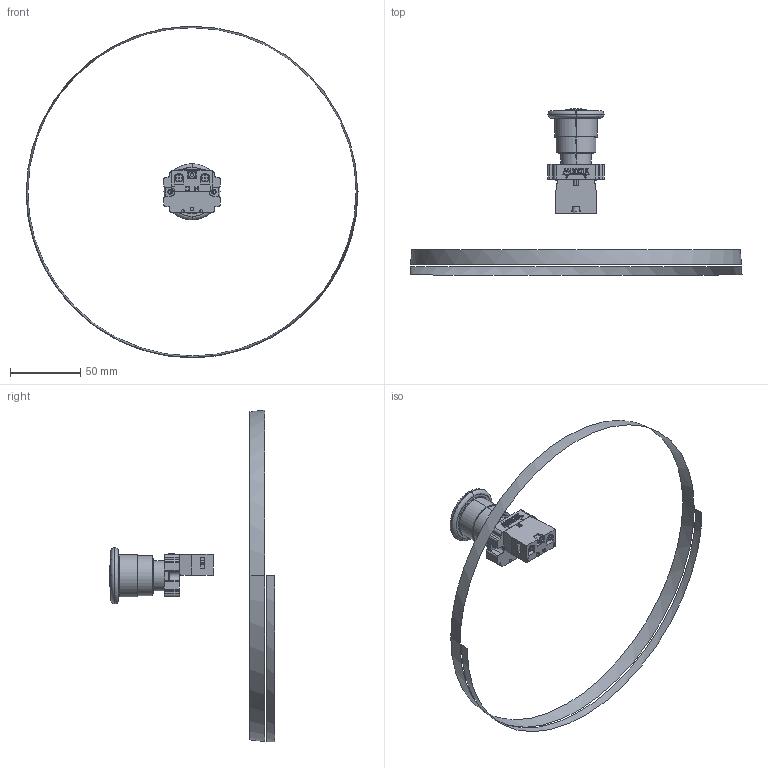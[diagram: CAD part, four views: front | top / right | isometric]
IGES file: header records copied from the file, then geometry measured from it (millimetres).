
Start section: SolidWorks IGES file using analytic representation for surfaces
Global section: file name: D:\X - Arquivos\PROEX\Empresas\P11 - METALTEX\01 - Produtos\IGES\Segunda remessa\M20BER-R-1B.IGS; native system: SolidWorks 2012; preprocessor: SolidWorks 2012; author: Usuario; date: 180117.121132; units: millimetre
Bounding box: 236.99 x 118.5 x 236.68 mm (x, y, z)
Surface area: 22443.9 mm2 (no closed solid volume)
Topology: 0 solids, 0 shells, 356 faces, 3992 edges, 3991 vertices
Faces by surface type: bspline 279, revolution 77
